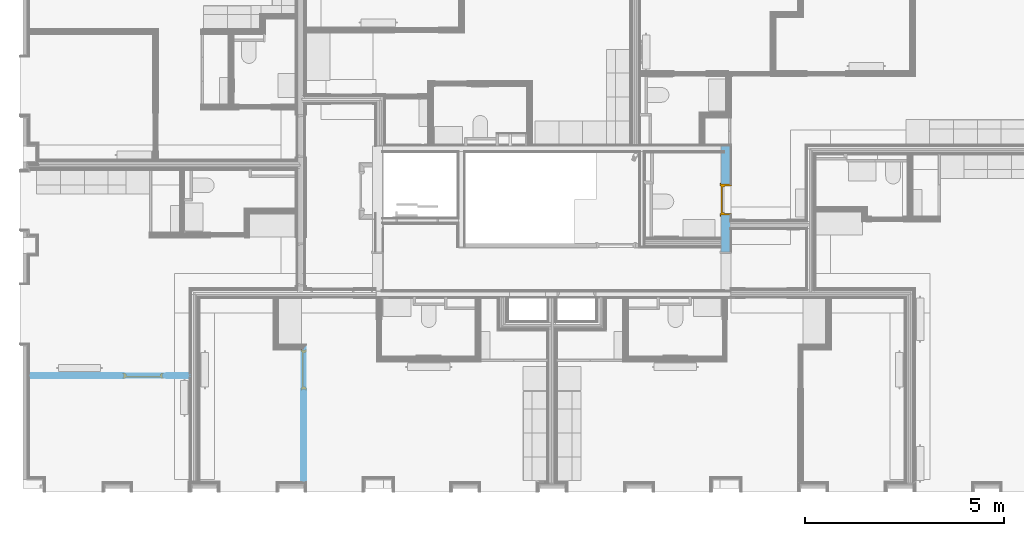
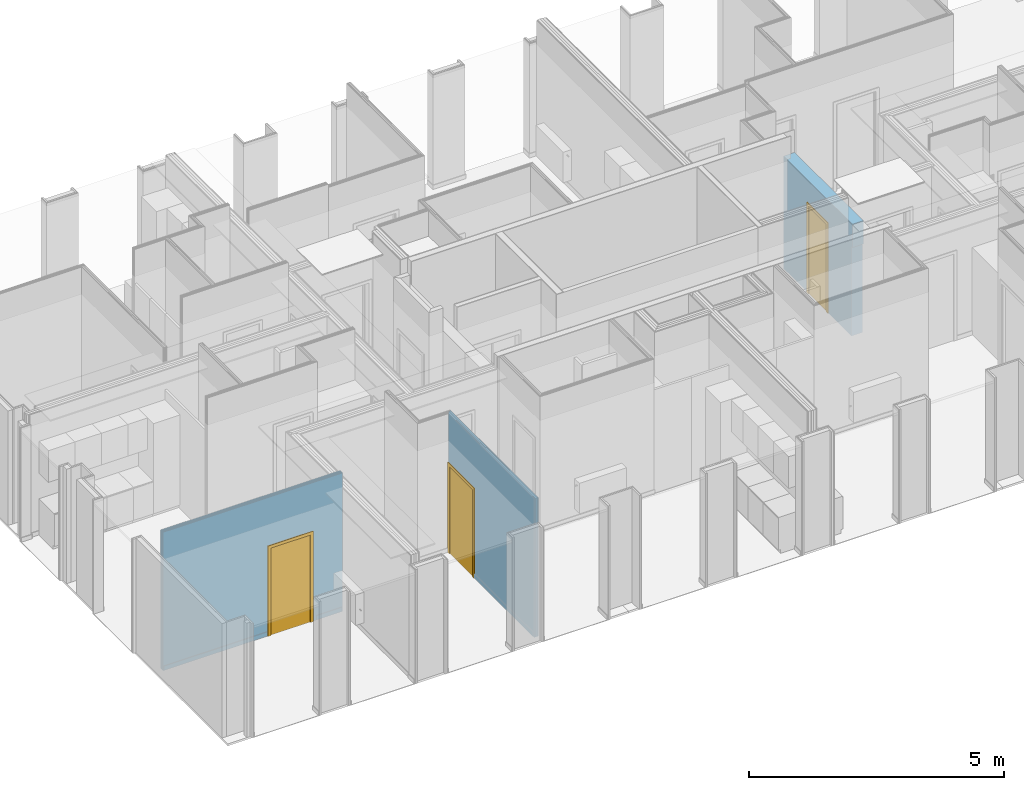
# One storey, part 50 of 65: 3 doors, 5 openings, 2 elements without a shape of their own, plus 15 elements that do not belong to this part.
"""IFC2X3 building model written with IfcOpenShell, lengths in metres."""

from ifc_helpers import new_model, entity, si_unit, converted_unit, derived_unit, money_unit, direction, frame, frame_2d, origin_with_axes, place, context, subcontext, project, spatial, polyline, rectangle, outline, extrude, faceted_brep, material, layer, layer_set, layer_usage, type_object, element, fill, aggregate, save


model = new_model("IFC2X3")

# Units and contexts
model_context = context("Model", 3, precision=1e-05, world=origin_with_axes(), true_north=direction((0.0, 1.0)))
body_context = subcontext(model_context, "Body", "Model", "MODEL_VIEW", scale=1.0)
ifc_project = project(units=[si_unit("LENGTHUNIT", "METRE"), si_unit("AREAUNIT", "SQUARE_METRE"), si_unit("VOLUMEUNIT", "CUBIC_METRE"), si_unit("ABSORBEDDOSEUNIT", "GRAY"), si_unit("AMOUNTOFSUBSTANCEUNIT", "MOLE"), si_unit("DOSEEQUIVALENTUNIT", "SIEVERT"), si_unit("ELECTRICCAPACITANCEUNIT", "FARAD"), si_unit("ELECTRICCHARGEUNIT", "COULOMB"), si_unit("ELECTRICCONDUCTANCEUNIT", "SIEMENS"), si_unit("ELECTRICCURRENTUNIT", "AMPERE"), si_unit("ELECTRICRESISTANCEUNIT", "OHM"), si_unit("ELECTRICVOLTAGEUNIT", "VOLT"), si_unit("ENERGYUNIT", "JOULE"), si_unit("FORCEUNIT", "NEWTON"), si_unit("FREQUENCYUNIT", "HERTZ"), si_unit("ILLUMINANCEUNIT", "LUX"), si_unit("INDUCTANCEUNIT", "HENRY"), si_unit("LUMINOUSFLUXUNIT", "LUMEN"), si_unit("LUMINOUSINTENSITYUNIT", "CANDELA"), si_unit("MAGNETICFLUXDENSITYUNIT", "TESLA"), si_unit("MAGNETICFLUXUNIT", "WEBER"), si_unit("MASSUNIT", "GRAM"), converted_unit("PLANEANGLEUNIT", "degree", entity("IfcReal", 0.0174532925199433), si_unit("PLANEANGLEUNIT", "RADIAN"), dimensions=[0, 0, 0, 0, 0, 0, 0]), si_unit("POWERUNIT", "WATT"), si_unit("PRESSUREUNIT", "PASCAL"), si_unit("RADIOACTIVITYUNIT", "BECQUEREL"), si_unit("SOLIDANGLEUNIT", "STERADIAN"), si_unit("THERMODYNAMICTEMPERATUREUNIT", "KELVIN"), si_unit("TIMEUNIT", "SECOND"), derived_unit("ACCELERATIONUNIT", [(si_unit("LENGTHUNIT", "METRE"), 1), (si_unit("TIMEUNIT", "SECOND"), -2)]), derived_unit("ANGULARVELOCITYUNIT", [(converted_unit("PLANEANGLEUNIT", "degree", entity("IfcReal", 0.0174532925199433), si_unit("PLANEANGLEUNIT", "RADIAN"), dimensions=[0, 0, 0, 0, 0, 0, 0]), 1), (si_unit("TIMEUNIT", "SECOND"), -1)]), derived_unit("CURVATUREUNIT", [(converted_unit("PLANEANGLEUNIT", "degree", entity("IfcReal", 0.0174532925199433), si_unit("PLANEANGLEUNIT", "RADIAN"), dimensions=[0, 0, 0, 0, 0, 0, 0]), 1), (si_unit("LENGTHUNIT", "METRE"), -1)]), derived_unit("DYNAMICVISCOSITYUNIT", [(si_unit("PRESSUREUNIT", "PASCAL"), 1), (si_unit("TIMEUNIT", "SECOND"), 1)]), derived_unit("HEATFLUXDENSITYUNIT", [(si_unit("POWERUNIT", "WATT"), 1), (si_unit("LENGTHUNIT", "METRE"), -2)]), derived_unit("HEATINGVALUEUNIT", [(si_unit("ENERGYUNIT", "JOULE"), 1), (si_unit("MASSUNIT", "GRAM"), -1)]), derived_unit("INTEGERCOUNTRATEUNIT", [(si_unit("TIMEUNIT", "SECOND"), -1)]), derived_unit("IONCONCENTRATIONUNIT", [(si_unit("MASSUNIT", "GRAM"), 1), (si_unit("VOLUMEUNIT", "CUBIC_METRE"), -1)]), derived_unit("ISOTHERMALMOISTURECAPACITYUNIT", [(si_unit("VOLUMEUNIT", "CUBIC_METRE"), 1), (si_unit("MASSUNIT", "GRAM"), -1)]), derived_unit("KINEMATICVISCOSITYUNIT", [(si_unit("AREAUNIT", "SQUARE_METRE"), 1), (si_unit("TIMEUNIT", "SECOND"), -1)]), derived_unit("LINEARFORCEUNIT", [(si_unit("FORCEUNIT", "NEWTON"), 1), (si_unit("LENGTHUNIT", "METRE"), -1)]), derived_unit("LINEARMOMENTUNIT", [(si_unit("FORCEUNIT", "NEWTON"), 1), (si_unit("LENGTHUNIT", "METRE"), -1)]), derived_unit("LINEARSTIFFNESSUNIT", [(si_unit("FORCEUNIT", "NEWTON"), 1), (si_unit("LENGTHUNIT", "METRE"), -1)]), derived_unit("LINEARVELOCITYUNIT", [(si_unit("LENGTHUNIT", "METRE"), 1), (si_unit("TIMEUNIT", "SECOND"), -1)]), derived_unit("LUMINOUSINTENSITYDISTRIBUTIONUNIT", [(si_unit("LUMINOUSINTENSITYUNIT", "CANDELA"), 1), (si_unit("LUMINOUSFLUXUNIT", "LUMEN"), -1)]), derived_unit("MASSDENSITYUNIT", [(si_unit("MASSUNIT", "GRAM"), 1), (si_unit("VOLUMEUNIT", "CUBIC_METRE"), -1)]), derived_unit("MASSFLOWRATEUNIT", [(si_unit("MASSUNIT", "GRAM"), 1), (si_unit("TIMEUNIT", "SECOND"), -1)]), derived_unit("MASSPERLENGTHUNIT", [(si_unit("MASSUNIT", "GRAM"), 1), (si_unit("LENGTHUNIT", "METRE"), -1)]), derived_unit("MODULUSOFELASTICITYUNIT", [(si_unit("FORCEUNIT", "NEWTON"), 1), (si_unit("AREAUNIT", "SQUARE_METRE"), -1)]), derived_unit("MODULUSOFLINEARSUBGRADEREACTIONUNIT", [(si_unit("FORCEUNIT", "NEWTON"), 1), (si_unit("LENGTHUNIT", "METRE"), -2)]), derived_unit("MODULUSOFROTATIONALSUBGRADEREACTIONUNIT", [(si_unit("FORCEUNIT", "NEWTON"), 1), (si_unit("LENGTHUNIT", "METRE"), 1)]), derived_unit("MODULUSOFSUBGRADEREACTIONUNIT", [(si_unit("FORCEUNIT", "NEWTON"), 1), (si_unit("VOLUMEUNIT", "CUBIC_METRE"), -1)]), derived_unit("MOISTUREDIFFUSIVITYUNIT", [(si_unit("VOLUMEUNIT", "CUBIC_METRE"), 1), (si_unit("TIMEUNIT", "SECOND"), -1)]), derived_unit("MOLECULARWEIGHTUNIT", [(si_unit("MASSUNIT", "GRAM"), 1), (si_unit("AMOUNTOFSUBSTANCEUNIT", "MOLE"), -1)]), derived_unit("PLANARFORCEUNIT", [(si_unit("FORCEUNIT", "NEWTON"), 1), (si_unit("LENGTHUNIT", "METRE"), -2)]), derived_unit("ROTATIONALFREQUENCYUNIT", [(si_unit("TIMEUNIT", "SECOND"), -1)]), derived_unit("ROTATIONALMASSUNIT", [(si_unit("MASSUNIT", "GRAM"), 1), (si_unit("LENGTHUNIT", "METRE"), 2)]), derived_unit("ROTATIONALSTIFFNESSUNIT", [(si_unit("FORCEUNIT", "NEWTON"), 1), (si_unit("LENGTHUNIT", "METRE"), 1), (converted_unit("PLANEANGLEUNIT", "degree", entity("IfcReal", 0.0174532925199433), si_unit("PLANEANGLEUNIT", "RADIAN"), dimensions=[0, 0, 0, 0, 0, 0, 0]), -1)]), derived_unit("SECTIONAREAINTEGRALUNIT", [(si_unit("LENGTHUNIT", "METRE"), 5)]), derived_unit("SECTIONMODULUSUNIT", [(si_unit("LENGTHUNIT", "METRE"), 3)]), derived_unit("SHEARMODULUSUNIT", [(si_unit("FORCEUNIT", "NEWTON"), 1), (si_unit("AREAUNIT", "SQUARE_METRE"), -1)]), derived_unit("SOUNDPOWERUNIT", [(si_unit("ENERGYUNIT", "JOULE"), 1), (si_unit("TIMEUNIT", "SECOND"), -1)]), derived_unit("SPECIFICHEATCAPACITYUNIT", [(si_unit("FORCEUNIT", "NEWTON"), 1), (si_unit("MASSUNIT", "GRAM"), -1), (si_unit("THERMODYNAMICTEMPERATUREUNIT", "KELVIN"), -1)]), derived_unit("TEMPERATUREGRADIENTUNIT", [(si_unit("THERMODYNAMICTEMPERATUREUNIT", "KELVIN"), 1), (si_unit("LENGTHUNIT", "METRE"), -1)]), derived_unit("THERMALADMITTANCEUNIT", [(si_unit("POWERUNIT", "WATT"), 1), (si_unit("AREAUNIT", "SQUARE_METRE"), -1), (si_unit("THERMODYNAMICTEMPERATUREUNIT", "KELVIN"), -1)]), derived_unit("THERMALCONDUCTANCEUNIT", [(si_unit("POWERUNIT", "WATT"), 1), (si_unit("LENGTHUNIT", "METRE"), -1), (si_unit("THERMODYNAMICTEMPERATUREUNIT", "KELVIN"), -1)]), derived_unit("THERMALEXPANSIONCOEFFICIENTUNIT", [(si_unit("THERMODYNAMICTEMPERATUREUNIT", "KELVIN"), -1)]), derived_unit("THERMALRESISTANCEUNIT", [(si_unit("AREAUNIT", "SQUARE_METRE"), 1), (si_unit("POWERUNIT", "WATT"), -1)]), derived_unit("THERMALTRANSMITTANCEUNIT", [(si_unit("POWERUNIT", "WATT"), 1), (si_unit("AREAUNIT", "SQUARE_METRE"), -1), (si_unit("THERMODYNAMICTEMPERATUREUNIT", "KELVIN"), -1)]), derived_unit("TORQUEUNIT", [(si_unit("FORCEUNIT", "NEWTON"), 1), (si_unit("LENGTHUNIT", "METRE"), 1)]), derived_unit("VAPORPERMEABILITYUNIT", [(si_unit("MASSUNIT", "GRAM"), 1), (si_unit("TIMEUNIT", "SECOND"), -1)]), derived_unit("VOLUMETRICFLOWRATEUNIT", [(si_unit("VOLUMEUNIT", "CUBIC_METRE"), 1), (si_unit("TIMEUNIT", "SECOND"), -1)]), derived_unit("WARPINGCONSTANTUNIT", [(si_unit("LENGTHUNIT", "METRE"), 6)]), derived_unit("WARPINGMOMENTUNIT", [(si_unit("FORCEUNIT", "NEWTON"), 1), (si_unit("LENGTHUNIT", "METRE"), 2)]), money_unit("GBP")], contexts=[model_context])

# Site, building, storey
site_placement = place(None, origin_with_axes())
site = spatial("IfcSite", under=ifc_project, at=site_placement, Name="Site", CompositionType="ELEMENT")
building_placement = place(site_placement, origin_with_axes())
building = spatial("IfcBuilding", under=site, at=building_placement, Name="Building01", CompositionType="ELEMENT")
storey_placement = place(building_placement, frame((0.0, 0.0, 8.64), z_axis=(0.0, 0.0, 1.0), x_axis=(1.0, 0.0, 0.0)))
storey = spatial("IfcBuildingStorey", under=building, at=storey_placement, Name="2F", CompositionType="ELEMENT", Elevation=8.64)

# Wall, openings
ifc_material_1 = material(Name="A_BSUK_Walls_Concrete")
ifc_layer = layer(ifc_material_1, 0.25, ventilated=False)
ifc_layer_set = layer_set([ifc_layer])
ifc_layer_usage = layer_usage(ifc_layer_set, "AXIS2", "POSITIVE", 0.0)
wall_type_1 = type_object("IfcWallType", Name="A-Walls-Concrete", PredefinedType="NOTDEFINED")
wall_1_placement = place(storey_placement, frame((17.875, 8.8, 0.0), z_axis=(0.0, 0.0, 1.0), x_axis=(0.0, -1.0, 0.0)))
wall_1 = element("IfcWallStandardCase", 1, at=wall_1_placement, inside=storey, type_object=wall_type_1, material=ifc_layer_usage, Name="A-Walls-Concrete", ObjectType="A-Walls-Concrete", context=body_context, shape_type="SweptSolid", body=[
    extrude(rectangle(XDim=2.7, YDim=0.25, at=frame_2d((1.35, 0.0), x_axis=(1.0, 0.0))), origin_with_axes(), (0.0, 0.0, 1.0), 2.7),
])
opening_1_placement = place(wall_1_placement, frame((0.958, -0.125, 0.0), z_axis=(0.0, 0.0, 1.0), x_axis=(1.0, 0.0, 0.0)))
opening_1 = element("IfcOpeningElement", 2, at=opening_1_placement, cuts=wall_1, Name="Opening", ObjectType="Opening", context=body_context, shape_type="SweptSolid", body=[
    extrude(rectangle(XDim=2.142, YDim=0.784, at=frame_2d((-0.392, 1.071), x_axis=(0.0, -1.0))), frame((0.0, 0.0, 0.0), z_axis=(0.0, 1.0, 0.0), x_axis=(-1.0, 0.0, 0.0)), (0.0, 0.0, 1.0), 0.25),
])
opening_2_placement = place(wall_1_placement, frame((2.666, -0.125, 0.0), z_axis=(0.0, 0.0, 1.0), x_axis=(1.0, 0.0, 0.0)))
element("IfcOpeningElement", 3, at=opening_2_placement, cuts=wall_1, Name="Opening", ObjectType="Opening", context=body_context, shape_type="SweptSolid", body=[
    extrude(rectangle(XDim=2.142, YDim=0.984, at=frame_2d((-0.492, 1.071), x_axis=(0.0, -1.0))), frame((0.0, 0.0, 0.0), z_axis=(0.0, 1.0, 0.0), x_axis=(-1.0, 0.0, 0.0)), (0.0, 0.0, 1.0), 0.25),
])

# Space
space_1_placement = place(storey_placement, frame((15.83, 8.82, 0.017975), z_axis=(0.0, 0.0, 1.0), x_axis=(0.0, -1.0, 0.0)))
space_1 = spatial("IfcSpace", under=storey, at=space_1_placement, Name="09", CompositionType="ELEMENT", InteriorOrExteriorSpace="NOTDEFINED")

# Door
ifc_material_2 = material(Name="A_BSUK_Doors")
door_style_1 = type_object("IfcDoorStyle", Name="A-Doors-SingleFlush", ConstructionType="USERDEFINED", OperationType="SINGLE_SWING_RIGHT", ParameterTakesPrecedence=False, Sizeable=False)
door_1_placement = place(opening_1_placement, frame((0.742, 0.0, 0.0), z_axis=(0.0, 0.0, 1.0), x_axis=(-1.0, 0.0, 0.0)))
door_1 = element("IfcDoor", 4, at=door_1_placement, inside=space_1, type_object=door_style_1, material=ifc_material_2, Name="2.08", ObjectType="A-Doors-SingleFlush", OverallHeight=2.142, OverallWidth=0.784, context=body_context, shape_type="Brep", body=[
    faceted_brep([(0.7, -0.269, 0.0), (0.769, -0.269, 0.0), (0.769, -0.269, 2.169), (-0.069, -0.269, 2.169), (-0.069, -0.269, 0.0), (0.0, -0.269, 0.0), (0.0, -0.269, 2.1), (0.7, -0.269, 2.1), (-0.069, -0.25, 0.0), (-0.069, -0.25, 2.169), (0.769, -0.25, 2.169), (0.769, -0.25, 0.0), (0.7, 0.019, 0.0), (0.769, 0.019, 0.0), (0.769, 0.0, 0.0), (0.742, 0.0, 0.0), (0.742, -0.25, 0.0), (0.7, 0.019, 2.1), (0.0, 0.019, 2.1), (0.0, 0.019, 0.0), (-0.069, 0.019, 0.0), (-0.069, 0.019, 2.169), (0.769, 0.019, 2.169), (0.769, 0.0, 2.169), (0.742, -0.25, 2.142), (0.742, 0.0, 2.142), (-0.042, -0.25, 2.142), (-0.042, 0.0, 2.142), (-0.042, -0.25, 0.0), (-0.042, 0.0, 0.0), (-0.069, 0.0, 2.169), (-0.069, 0.0, 0.0)], [[[0, 1, 2, 3, 4, 5, 6, 7]], [[8, 4, 3, 9]], [[10, 2, 1, 11]], [[9, 3, 2, 10]], [[12, 13, 14, 15, 16, 11, 1, 0]], [[7, 17, 12, 0]], [[6, 18, 17, 7]], [[18, 19, 20, 21, 22, 13, 12, 17]], [[5, 19, 18, 6]], [[13, 22, 23, 14]], [[24, 16, 15, 25]], [[26, 24, 25, 27]], [[11, 16, 24, 26, 28, 8, 9, 10]], [[27, 29, 28, 26]], [[25, 15, 14, 23, 30, 31, 29, 27]], [[5, 4, 8, 28, 29, 31, 20, 19]], [[30, 21, 20, 31]], [[23, 22, 21, 30]]]),
    faceted_brep([(0.0, -0.09, 2.1), (0.0, -0.04, 2.1), (0.0, -0.04, 0.0), (0.0, -0.09, 0.0), (0.675, -0.09, 0.0), (0.7, -0.09, 0.0), (0.7, -0.09, 2.1), (0.025, -0.09, 0.0), (0.025, -0.09, 2.075), (0.675, -0.09, 2.075), (0.675, -0.04, 0.0), (0.7, -0.04, 0.0), (0.7, -0.04, 2.1), (0.025, -0.04, 2.075), (0.025, -0.04, 0.0), (0.675, -0.04, 2.075)], [[[0, 1, 2, 3]], [[4, 5, 6, 0, 3, 7, 8, 9]], [[10, 11, 5, 4]], [[6, 12, 1, 0]], [[5, 11, 12, 6]], [[13, 14, 2, 1, 12, 11, 10, 15]], [[7, 14, 13, 8]], [[7, 3, 2, 14]], [[9, 15, 10, 4]], [[8, 13, 15, 9]]]),
    faceted_brep([(0.7, -0.04, 0.0), (0.7, 0.0, 0.0), (0.7, 0.0, 2.1), (0.7, -0.04, 2.1), (0.0, -0.04, 2.1), (0.0, 0.0, 2.1), (0.0, 0.0, 0.0), (0.0, -0.04, 0.0)], [[[0, 1, 2, 3]], [[4, 5, 6, 7]], [[7, 6, 1, 0]], [[3, 4, 7, 0]], [[3, 2, 5, 4]], [[1, 6, 5, 2]]]),
])

fill(opening_1, door_1)

# Space
space_2_placement = place(storey_placement, frame((0.318, 8.21067, 0.017975), z_axis=(0.0, 0.0, 1.0), x_axis=(0.0, -1.0, 0.0)))
space_2 = spatial("IfcSpace", under=storey, at=space_2_placement, Name="13", CompositionType="ELEMENT", InteriorOrExteriorSpace="NOTDEFINED")

# Door
door_style_2 = type_object("IfcDoorStyle", Name="A-Doors-SingleFlush", ConstructionType="USERDEFINED", OperationType="SINGLE_SWING_LEFT", ParameterTakesPrecedence=False, Sizeable=False)
wall_3_placement = place(storey_placement, frame((0.318, 3.030286, 0.0), z_axis=(0.0, 0.0, 1.0), x_axis=(1.0, 0.0, 0.0)))
opening_5_placement = place(wall_3_placement, frame((2.391, -0.075, -0.03), z_axis=(0.0, 0.0, 1.0), x_axis=(1.0, 0.0, 0.0)))
door_2_placement = place(opening_5_placement, frame((0.942, 0.015, 0.03), z_axis=(0.0, 0.0, 1.0), x_axis=(-1.0, 0.0, 0.0)))
door_2 = element("IfcDoor", 5, at=door_2_placement, inside=space_2, type_object=door_style_2, material=ifc_material_2, Name="2.19", ObjectType="A-Doors-SingleFlush", OverallHeight=2.17200000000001, OverallWidth=1.08300000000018, context=body_context, shape_type="Brep", body=[
    faceted_brep([(0.0, -0.114, 2.1), (0.9, -0.114, 2.1), (0.9, -0.114, 0.0), (0.969, -0.114, 0.0), (0.969, -0.114, 2.169), (-0.069, -0.114, 2.169), (-0.069, -0.114, 0.0), (0.0, -0.114, 0.0), (0.969, -0.095, 2.169), (0.969, -0.095, 0.0), (-0.069, -0.095, 0.0), (-0.069, -0.095, 2.169), (-0.042, -0.095, 0.0), (-0.042, 0.0, 0.0), (-0.069, 0.0, 0.0), (-0.069, 0.019, 0.0), (0.0, 0.019, 0.0), (0.0, 0.019, 2.1), (0.9, 0.019, 2.1), (-0.069, 0.019, 2.169), (0.969, 0.019, 2.169), (0.969, 0.019, 0.0), (0.9, 0.019, 0.0), (-0.069, 0.0, 2.169), (-0.042, 0.0, 2.142), (-0.042, -0.095, 2.142), (0.942, 0.0, 2.142), (0.942, -0.095, 2.142), (0.942, -0.095, 0.0), (0.942, 0.0, 0.0), (0.969, 0.0, 0.0), (0.969, 0.0, 2.169)], [[[0, 1, 2, 3, 4, 5, 6, 7]], [[8, 4, 3, 9]], [[10, 6, 5, 11]], [[11, 5, 4, 8]], [[7, 6, 10, 12, 13, 14, 15, 16]], [[7, 16, 17, 0]], [[0, 17, 18, 1]], [[17, 16, 15, 19, 20, 21, 22, 18]], [[1, 18, 22, 2]], [[14, 23, 19, 15]], [[24, 13, 12, 25]], [[26, 24, 25, 27]], [[11, 8, 9, 28, 27, 25, 12, 10]], [[27, 28, 29, 26]], [[26, 29, 30, 31, 23, 14, 13, 24]], [[22, 21, 30, 29, 28, 9, 3, 2]], [[30, 21, 20, 31]], [[31, 20, 19, 23]]]),
    faceted_brep([(0.9, -0.09, 0.0), (0.9, -0.04, 0.0), (0.9, -0.04, 2.1), (0.9, -0.09, 2.1), (0.025, -0.09, 2.075), (0.875, -0.09, 2.075), (0.875, -0.09, 0.0), (0.0, -0.09, 2.1), (0.0, -0.09, 0.0), (0.025, -0.09, 0.0), (0.0, -0.04, 0.0), (0.025, -0.04, 0.0), (0.0, -0.04, 2.1), (0.025, -0.04, 2.075), (0.875, -0.04, 0.0), (0.875, -0.04, 2.075)], [[[0, 1, 2, 3]], [[4, 5, 6, 0, 3, 7, 8, 9]], [[9, 8, 10, 11]], [[3, 2, 12, 7]], [[7, 12, 10, 8]], [[13, 11, 10, 12, 2, 1, 14, 15]], [[5, 15, 14, 6]], [[14, 1, 0, 6]], [[9, 11, 13, 4]], [[4, 13, 15, 5]]]),
    faceted_brep([(0.0, -0.04, 2.1), (0.0, 0.0, 2.1), (0.0, 0.0, 0.0), (0.0, -0.04, 0.0), (0.9, -0.04, 0.0), (0.9, 0.0, 0.0), (0.9, 0.0, 2.1), (0.9, -0.04, 2.1)], [[[0, 1, 2, 3]], [[4, 5, 6, 7]], [[3, 2, 5, 4]], [[3, 4, 7, 0]], [[7, 6, 1, 0]], [[1, 6, 5, 2]]]),
])

# Space
space_3_placement = place(storey_placement, frame((12.15, 4.98, 0.017975), z_axis=(0.0, 0.0, 1.0), x_axis=(-1.0, 0.0, 0.0)))
space_3 = spatial("IfcSpace", under=storey, at=space_3_placement, Name="12", CompositionType="ELEMENT", InteriorOrExteriorSpace="NOTDEFINED")

# Door
door_style_3 = type_object("IfcDoorStyle", Name="A-Doors-SingleFlush", ConstructionType="USERDEFINED", OperationType="SINGLE_SWING_RIGHT", ParameterTakesPrecedence=False, Sizeable=False)
wall_2_placement = place(storey_placement, frame((7.26, 3.745, 0.0), z_axis=(0.0, 0.0, 1.0), x_axis=(0.0, -1.0, 0.0)))
opening_3_placement = place(wall_2_placement, frame((0.129, -0.075, -0.015), z_axis=(0.0, 0.0, 1.0), x_axis=(1.0, 0.0, 0.0)))
door_3_placement = place(opening_3_placement, frame((0.9, 0.015, 0.015), z_axis=(0.0, 0.0, 1.0), x_axis=(-1.0, 0.0, 0.0)))
door_3 = element("IfcDoor", 6, at=door_3_placement, inside=space_3, type_object=door_style_3, material=ifc_material_2, Name="2.16", ObjectType="A-Doors-SingleFlush", OverallHeight=2.157, OverallWidth=1.56178056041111, context=body_context, shape_type="Brep", body=[
    faceted_brep([(0.9, -0.114, 0.0), (0.969, -0.114, 0.0), (0.969, -0.114, 2.169), (-0.069, -0.114, 2.169), (-0.069, -0.114, 0.0), (0.0, -0.114, 0.0), (0.0, -0.114, 2.1), (0.9, -0.114, 2.1), (-0.069, -0.095, 0.0), (-0.069, -0.095, 2.169), (0.969, -0.095, 2.169), (0.969, -0.095, 0.0), (0.9, 0.019, 0.0), (0.969, 0.019, 0.0), (0.969, 0.0, 0.0), (0.942, 0.0, 0.0), (0.942, -0.095, 0.0), (0.9, 0.019, 2.1), (0.0, 0.019, 2.1), (0.0, 0.019, 0.0), (-0.069, 0.019, 0.0), (-0.069, 0.019, 2.169), (0.969, 0.019, 2.169), (0.969, 0.0, 2.169), (0.942, -0.095, 2.142), (0.942, 0.0, 2.142), (-0.042, -0.095, 2.142), (-0.042, 0.0, 2.142), (-0.042, -0.095, 0.0), (-0.042, 0.0, 0.0), (-0.069, 0.0, 2.169), (-0.069, 0.0, 0.0)], [[[0, 1, 2, 3, 4, 5, 6, 7]], [[8, 4, 3, 9]], [[10, 2, 1, 11]], [[9, 3, 2, 10]], [[12, 13, 14, 15, 16, 11, 1, 0]], [[7, 17, 12, 0]], [[6, 18, 17, 7]], [[18, 19, 20, 21, 22, 13, 12, 17]], [[5, 19, 18, 6]], [[13, 22, 23, 14]], [[24, 16, 15, 25]], [[26, 24, 25, 27]], [[11, 16, 24, 26, 28, 8, 9, 10]], [[27, 29, 28, 26]], [[25, 15, 14, 23, 30, 31, 29, 27]], [[5, 4, 8, 28, 29, 31, 20, 19]], [[30, 21, 20, 31]], [[23, 22, 21, 30]]]),
    faceted_brep([(0.0, -0.09, 2.1), (0.0, -0.04, 2.1), (0.0, -0.04, 0.0), (0.0, -0.09, 0.0), (0.875, -0.09, 0.0), (0.9, -0.09, 0.0), (0.9, -0.09, 2.1), (0.025, -0.09, 0.0), (0.025, -0.09, 2.075), (0.875, -0.09, 2.075), (0.875, -0.04, 0.0), (0.9, -0.04, 0.0), (0.9, -0.04, 2.1), (0.025, -0.04, 2.075), (0.025, -0.04, 0.0), (0.875, -0.04, 2.075)], [[[0, 1, 2, 3]], [[4, 5, 6, 0, 3, 7, 8, 9]], [[10, 11, 5, 4]], [[6, 12, 1, 0]], [[5, 11, 12, 6]], [[13, 14, 2, 1, 12, 11, 10, 15]], [[7, 14, 13, 8]], [[7, 3, 2, 14]], [[9, 15, 10, 4]], [[8, 13, 15, 9]]]),
    faceted_brep([(0.9, -0.04, 0.0), (0.9, 0.0, 0.0), (0.9, 0.0, 2.1), (0.9, -0.04, 2.1), (0.0, -0.04, 2.1), (0.0, 0.0, 2.1), (0.0, 0.0, 0.0), (0.0, -0.04, 0.0)], [[[0, 1, 2, 3]], [[4, 5, 6, 7]], [[7, 6, 1, 0]], [[3, 4, 7, 0]], [[3, 2, 5, 4]], [[1, 6, 5, 2]]]),
])

# Wall, opening
wall_type_2 = type_object("IfcWallType", Name="SHE_A-Walls_Type05a_Partition_95mm_tall", PredefinedType="NOTDEFINED")
wall_2 = element("IfcWall", 7, at=wall_2_placement, inside=storey, type_object=wall_type_2, Name="5A", ObjectType="SHE_A-Walls_Type05a_Partition_95mm_tall")
opening_3 = element("IfcOpeningElement", 8, at=opening_3_placement, cuts=wall_2, Name="Opening", ObjectType="Opening", context=body_context, shape_type="SweptSolid", body=[
    extrude(outline(polyline([(0.0, 2.142), (-0.9, 2.142), (-0.9, 0.015), (-0.464219, 0.015), (-0.464219, 0.0), (0.0, 0.0), (0.0, 2.142)])), frame((0.0, 0.0, 0.0), z_axis=(0.0, 1.0, 0.0), x_axis=(-1.0, 0.0, 0.0)), (0.0, 0.0, 1.0), 0.125),
    extrude(outline(polyline([(0.619781, 2.157), (-0.942, 2.157), (-0.942, 0.015), (-0.464219, 0.015), (-0.464219, 0.0), (0.619781, 0.0), (0.619781, 2.157)])), frame((0.0, 0.015, 0.0), z_axis=(0.0, 1.0, 0.0), x_axis=(-1.0, 0.0, 0.0)), (0.0, 0.0, 1.0), 0.012),
    extrude(outline(polyline([(0.619781, 2.157), (-0.942, 2.157), (-0.942, 0.015), (-0.464219, 0.015), (-0.464219, 0.0), (0.619781, 0.0), (0.619781, 2.157)])), frame((0.0, 0.027, 0.0), z_axis=(0.0, 1.0, 0.0), x_axis=(-1.0, 0.0, 0.0)), (0.0, 0.0, 1.0), 0.023),
    extrude(outline(polyline([(0.619781, 2.157), (-0.942, 2.157), (-0.942, 0.015), (-0.464219, 0.015), (-0.464219, 0.0), (0.619781, 0.0), (0.619781, 2.157)])), frame((0.0, 0.05, 0.0), z_axis=(0.0, 1.0, 0.0), x_axis=(-1.0, 0.0, 0.0)), (0.0, 0.0, 1.0), 0.025),
    extrude(outline(polyline([(0.619781, 2.157), (-0.942, 2.157), (-0.942, 0.015), (-0.464219, 0.015), (-0.464219, 0.0), (0.619781, 0.0), (0.619781, 2.157)])), frame((0.0, 0.075, 0.0), z_axis=(0.0, 1.0, 0.0), x_axis=(-1.0, 0.0, 0.0)), (0.0, 0.0, 1.0), 0.023),
    extrude(rectangle(XDim=0.9, YDim=2.142, at=frame_2d((-0.45, 1.071), x_axis=(-1.0, 0.0))), frame((0.0, 0.098, 0.0), z_axis=(0.0, 1.0, 0.0), x_axis=(-1.0, 0.0, 0.0)), (0.0, 0.0, 1.0), 0.012),
    extrude(outline(polyline([(0.042, 2.142), (0.042, 2.157), (-0.942, 2.157), (-0.942, 0.015), (-0.464219, 0.015), (-0.464219, 0.0), (0.619781, 0.0), (0.619781, 2.142), (0.042, 2.142)])), frame((0.0, 0.0, 0.0), z_axis=(0.0, 1.0, 0.0), x_axis=(-1.0, 0.0, 0.0)), (0.0, 0.0, 1.0), 0.098),
    extrude(outline(polyline([(0.042, 2.142), (0.042, 2.157), (-0.942, 2.157), (-0.942, 0.015), (-0.464219, 0.015), (-0.464219, 0.0), (0.619781, 0.0), (0.619781, 2.142), (0.042, 2.142)])), frame((0.0, 0.11, 0.0), z_axis=(0.0, 1.0, 0.0), x_axis=(-1.0, 0.0, 0.0)), (0.0, 0.0, 1.0), 0.015),
])

fill(opening_3, door_3)

# Opening
opening_4_placement = place(wall_2_placement, frame((0.087, 0.023, 0.0), z_axis=(0.0, 0.0, 1.0), x_axis=(1.0, 0.0, 0.0)))
element("IfcOpeningElement", 9, at=opening_4_placement, cuts=wall_2, Name="Opening", ObjectType="Recess", context=body_context, shape_type="SweptSolid", body=[
    extrude(rectangle(XDim=2.142, YDim=0.984, at=frame_2d((-0.492, 1.071), x_axis=(0.0, 1.0))), frame((0.0, 0.0, 0.0), z_axis=(0.0, 1.0, 0.0), x_axis=(-1.0, 0.0, 0.0)), (0.0, 0.0, 1.0), 0.012),
])

# Building element part
ifc_material_3 = material(Name="A_BSUK_Walls_Timber")
placement_1 = place(wall_2_placement, origin_with_axes())
building_element_part_1 = element("IfcBuildingElementPart", 10, at=placement_1, material=ifc_material_3, Name="1", context=body_context, shape_type="SweptSolid", body=[
    extrude(outline(polyline([(3.412, -0.06), (0.06, -0.06), (0.075, -0.075), (3.412, -0.075), (3.412, -0.06)])), frame((0.0, 0.0, 0.015), z_axis=(0.0, 0.0, 1.0), x_axis=(1.0, 0.0, 0.0)), (0.0, 0.0, 1.0), 0.1),
])

ifc_material_4 = material(Name="A_BSUK_WallInternal_Finishes_Plasterboard")
building_element_part_2 = element("IfcBuildingElementPart", 11, at=placement_1, material=ifc_material_4, Name="2", context=body_context, shape_type="SweptSolid", body=[
    extrude(outline(polyline([(3.427, -0.048), (0.048, -0.048), (0.06, -0.06), (3.427, -0.06), (3.427, -0.048)])), origin_with_axes(), (0.0, 0.0, 1.0), 3.32),
])

ifc_material_5 = material(Name="Air Cavity")
building_element_part_3 = element("IfcBuildingElementPart", 12, at=placement_1, material=ifc_material_5, Name="3", context=body_context, shape_type="SweptSolid", body=[
    extrude(outline(polyline([(3.427, -0.025), (0.025, -0.025), (0.048, -0.048), (3.427, -0.048), (3.427, -0.025)])), origin_with_axes(), (0.0, 0.0, 1.0), 3.32),
])

ifc_material_6 = material(Name="A_BSUK_Insulation")
building_element_part_4 = element("IfcBuildingElementPart", 13, at=placement_1, material=ifc_material_6, Name="4", context=body_context, shape_type="SweptSolid", body=[
    extrude(rectangle(XDim=3.427, YDim=0.025, at=frame_2d((1.7135, -0.0125), x_axis=(-1.0, 0.0))), origin_with_axes(), (0.0, 0.0, 1.0), 3.32),
])

building_element_part_5 = element("IfcBuildingElementPart", 14, at=placement_1, material=ifc_material_5, Name="5", context=body_context, shape_type="SweptSolid", body=[
    extrude(rectangle(XDim=3.427, YDim=0.023, at=frame_2d((1.7135, 0.0115), x_axis=(-1.0, 0.0))), origin_with_axes(), (0.0, 0.0, 1.0), 3.32),
])

building_element_part_6 = element("IfcBuildingElementPart", 15, at=placement_1, material=ifc_material_4, Name="6", context=body_context, shape_type="SweptSolid", body=[
    extrude(outline(polyline([(3.427, 0.035), (-0.035, 0.035), (-0.023, 0.023), (3.427, 0.023), (3.427, 0.035)])), origin_with_axes(), (0.0, 0.0, 1.0), 3.32),
])

building_element_part_7 = element("IfcBuildingElementPart", 16, at=placement_1, material=ifc_material_3, Name="7", context=body_context, shape_type="SweptSolid", body=[
    extrude(outline(polyline([(3.412, 0.05), (-0.05, 0.05), (-0.035, 0.035), (3.412, 0.035), (3.412, 0.05)])), frame((0.0, 0.0, 0.015), z_axis=(0.0, 0.0, 1.0), x_axis=(1.0, 0.0, 0.0)), (0.0, 0.0, 1.0), 0.1),
])

aggregate(wall_2, [building_element_part_1, building_element_part_2, building_element_part_3, building_element_part_4, building_element_part_5, building_element_part_6, building_element_part_7])

# Wall, opening
wall_3 = element("IfcWall", 17, at=wall_3_placement, inside=storey, type_object=wall_type_2, Name="5A", ObjectType="SHE_A-Walls_Type05a_Partition_95mm_tall")
opening_5 = element("IfcOpeningElement", 18, at=opening_5_placement, cuts=wall_3, Name="Opening", ObjectType="Opening", context=body_context, shape_type="SweptSolid", body=[
    extrude(outline(polyline([(-0.984, 0.0), (-0.099, 0.0), (-0.099, 0.03), (0.0, 0.03), (0.0, 2.172), (-0.984, 2.172), (-0.984, 0.0)])), frame((0.0, 0.0, 0.0), z_axis=(0.0, 1.0, 0.0), x_axis=(-1.0, 0.0, 0.0)), (0.0, 0.0, 1.0), 0.125),
    extrude(rectangle(XDim=0.984, YDim=2.172, at=frame_2d((-0.492, 1.086), x_axis=(1.0, 0.0))), frame((0.0, 0.015, 0.0), z_axis=(0.0, 1.0, 0.0), x_axis=(-1.0, 0.0, 0.0)), (0.0, 0.0, 1.0), 0.012),
    extrude(outline(polyline([(-0.099, 0.03), (0.0, 0.03), (0.0, 2.172), (-0.984, 2.172), (-0.984, 2.142), (-1.083, 2.142), (-1.083, 0.0), (-0.099, 0.0), (-0.099, 0.03)])), frame((0.0, 0.0, 0.0), z_axis=(0.0, 1.0, 0.0), x_axis=(-1.0, 0.0, 0.0)), (0.0, 0.0, 1.0), 0.015),
    extrude(rectangle(XDim=0.984, YDim=2.172, at=frame_2d((-0.492, 1.086), x_axis=(1.0, 0.0))), frame((0.0, 0.027, 0.0), z_axis=(0.0, 1.0, 0.0), x_axis=(-1.0, 0.0, 0.0)), (0.0, 0.0, 1.0), 0.023),
    extrude(outline(polyline([(-0.984, 0.0), (-0.042, 0.0), (-0.042, 0.03), (0.0, 0.03), (0.0, 2.172), (-0.984, 2.172), (-0.984, 0.0)])), frame((0.0, 0.05, 0.0), z_axis=(0.0, 1.0, 0.0), x_axis=(-1.0, 0.0, 0.0)), (0.0, 0.0, 1.0), 0.025),
    extrude(outline(polyline([(-0.984, 0.0), (-0.042, 0.0), (-0.042, 0.03), (0.0, 0.03), (0.0, 2.172), (-0.984, 2.172), (-0.984, 0.0)])), frame((0.0, 0.075, 0.0), z_axis=(0.0, 1.0, 0.0), x_axis=(-1.0, 0.0, 0.0)), (0.0, 0.0, 1.0), 0.023),
    extrude(outline(polyline([(-0.984, 0.0), (-0.042, 0.0), (-0.042, 0.03), (0.0, 0.03), (0.0, 2.172), (-0.984, 2.172), (-0.984, 0.0)])), frame((0.0, 0.098, 0.0), z_axis=(0.0, 1.0, 0.0), x_axis=(-1.0, 0.0, 0.0)), (0.0, 0.0, 1.0), 0.012),
    extrude(outline(polyline([(-0.099, 0.03), (0.0, 0.03), (0.0, 2.172), (-0.984, 2.172), (-0.984, 2.142), (-1.083, 2.142), (-1.083, 0.0), (-0.099, 0.0), (-0.099, 0.03)])), frame((0.0, 0.11, 0.0), z_axis=(0.0, 1.0, 0.0), x_axis=(-1.0, 0.0, 0.0)), (0.0, 0.0, 1.0), 0.015),
])

fill(opening_5, door_2)

# Building element part
placement_2 = place(wall_3_placement, origin_with_axes())
building_element_part_8 = element("IfcBuildingElementPart", 19, at=placement_2, material=ifc_material_3, Name="1", context=body_context, shape_type="SweptSolid", body=[
    extrude(rectangle(XDim=4.037, YDim=0.015, at=frame_2d((2.0335, -0.0675), x_axis=(-1.0, 0.0))), frame((0.0, 0.0, 0.015), z_axis=(0.0, 0.0, 1.0), x_axis=(1.0, 0.0, 0.0)), (0.0, 0.0, 1.0), 0.1),
])

building_element_part_9 = element("IfcBuildingElementPart", 20, at=placement_2, material=ifc_material_4, Name="2", context=body_context, shape_type="SweptSolid", body=[
    extrude(rectangle(XDim=4.067, YDim=0.012, at=frame_2d((2.0335, -0.054), x_axis=(-1.0, 0.0))), origin_with_axes(), (0.0, 0.0, 1.0), 3.32),
])

building_element_part_10 = element("IfcBuildingElementPart", 21, at=placement_2, material=ifc_material_5, Name="3", context=body_context, shape_type="SweptSolid", body=[
    extrude(rectangle(XDim=4.067, YDim=0.023, at=frame_2d((2.0335, -0.0365), x_axis=(-1.0, 0.0))), origin_with_axes(), (0.0, 0.0, 1.0), 3.32),
])

building_element_part_11 = element("IfcBuildingElementPart", 22, at=placement_2, material=ifc_material_6, Name="4", context=body_context, shape_type="SweptSolid", body=[
    extrude(rectangle(XDim=4.067, YDim=0.025, at=frame_2d((2.0335, -0.0125), x_axis=(-1.0, 0.0))), origin_with_axes(), (0.0, 0.0, 1.0), 3.32),
])

building_element_part_12 = element("IfcBuildingElementPart", 23, at=placement_2, material=ifc_material_5, Name="5", context=body_context, shape_type="SweptSolid", body=[
    extrude(rectangle(XDim=4.067, YDim=0.023, at=frame_2d((2.0335, 0.0115), x_axis=(-1.0, 0.0))), origin_with_axes(), (0.0, 0.0, 1.0), 3.32),
])

building_element_part_13 = element("IfcBuildingElementPart", 24, at=placement_2, material=ifc_material_4, Name="6", context=body_context, shape_type="SweptSolid", body=[
    extrude(rectangle(XDim=4.067, YDim=0.012, at=frame_2d((2.0335, 0.029), x_axis=(-1.0, 0.0))), origin_with_axes(), (0.0, 0.0, 1.0), 3.32),
])

building_element_part_14 = element("IfcBuildingElementPart", 25, at=placement_2, material=ifc_material_3, Name="7", context=body_context, shape_type="SweptSolid", body=[
    extrude(rectangle(XDim=4.037, YDim=0.015, at=frame_2d((2.0335, 0.0425), x_axis=(-1.0, 0.0))), frame((0.0, 0.0, 0.015), z_axis=(0.0, 0.0, 1.0), x_axis=(1.0, 0.0, 0.0)), (0.0, 0.0, 1.0), 0.1),
])

aggregate(wall_3, [building_element_part_8, building_element_part_9, building_element_part_10, building_element_part_11, building_element_part_12, building_element_part_13, building_element_part_14])

save(model, "model.ifc")
